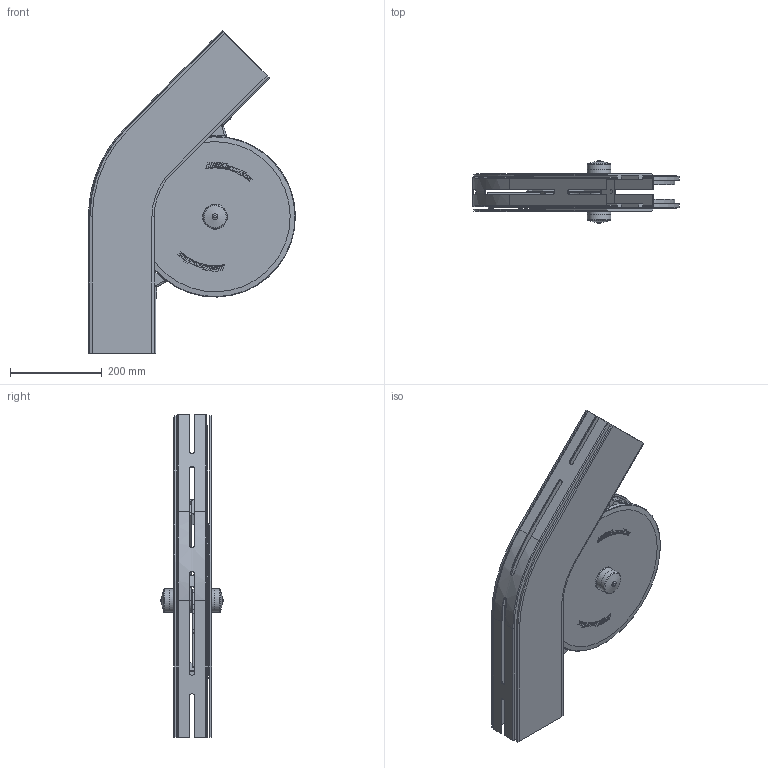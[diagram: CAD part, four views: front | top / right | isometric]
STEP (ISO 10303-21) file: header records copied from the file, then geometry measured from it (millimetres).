
FILE_DESCRIPTION(/* description */ ('WHEELCURVE 45° SERIE 540'),/* implementation_level */ '2;1');
FILE_NAME(/* name */ '540-5055-45.stp',/* time_stamp */ '2022-09-21T15:39:17+02:00',/* author */ ('ML'),/* organization */ ('CARRYLINE'),/* preprocessor_version */ 'ST-DEVELOPER v19.2',/* originating_system */ 'Autodesk Inventor 2023',/* authorisation */ '');
FILE_SCHEMA (('AUTOMOTIVE_DESIGN { 1 0 10303 214 3 1 1 }'));
Length unit declared in the file: millimetre
Products named in the file (8): 540-5055-45; 540-5375+140-2000-01; 14261_2; 14261_11; 14261_12; 830-5060_1; 830-5062; 14261_21
Assembly tree (10 placements, depth 2):
  540-5055-45
    540-5375+140-2000-01
    14261_2
    14261_11
    14261_12
    14261_21  x2
    830-5060_1  x2
    830-5062  x2
Bounding box: 450.46 x 136.8 x 702.67 mm (x, y, z)
Volume: 3239536.2 mm3; surface area: 1595885.2 mm2
Topology: 11 solids, 11 shells, 1390 faces, 3495 edges, 2196 vertices
Faces by surface type: plane 801, bspline 262, cylinder 195, cone 66, torus 62, sphere 4
Full cylindrical faces by diameter (mm): 4.917 x8, 6.2 x8, 8.5 x2, 16.2 x2, 17 x4, 20 x4, 30 x3, 40 x4, 47.6 x2, 51.3 x2, 350 x2
Entity records: 31717 total; most frequent: CARTESIAN_POINT 11822, ORIENTED_EDGE 4182, DIRECTION 3822, EDGE_CURVE 2091, VERTEX_POINT 1340, LINE 1316, VECTOR 1316, AXIS2_PLACEMENT_3D 1253
